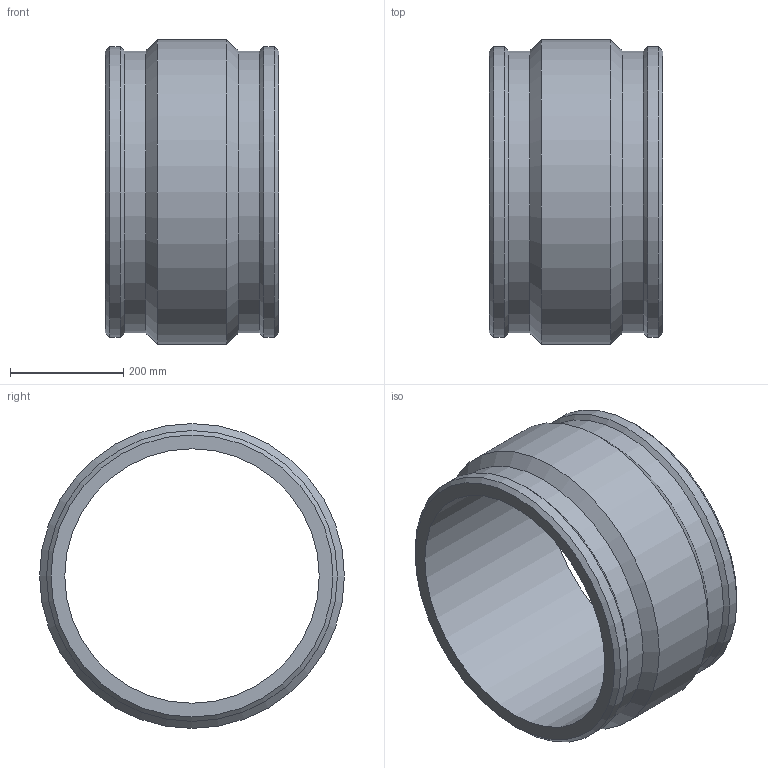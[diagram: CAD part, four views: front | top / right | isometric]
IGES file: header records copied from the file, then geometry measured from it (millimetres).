
Global section: file name: 490103450.ipt; native system: Autodesk Inventor 2015; preprocessor: unknown; author: KIM; date: 20171106.093523; units: millimetre
Bounding box: 306 x 539 x 539 mm (x, y, z)
Volume: 16397406.9 mm3; surface area: 1053672.7 mm2
Topology: 1 solids, 1 shells, 28 faces, 52 edges, 30 vertices
Faces by surface type: cylinder 11, plane 8, cone 6, revolution 3
Full cylindrical faces by diameter (mm): 4 x2, 498.58 x2, 514 x2, 539 x1
